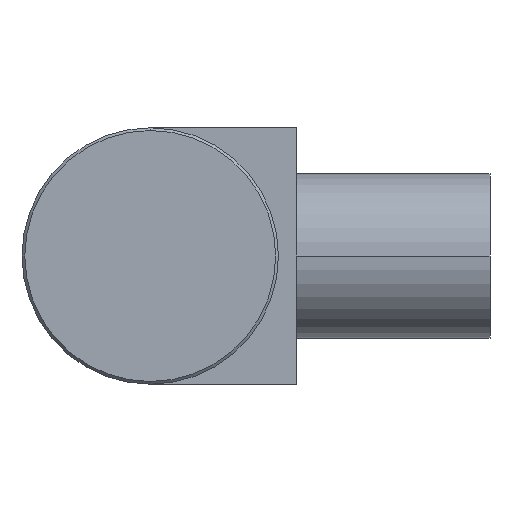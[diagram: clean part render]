
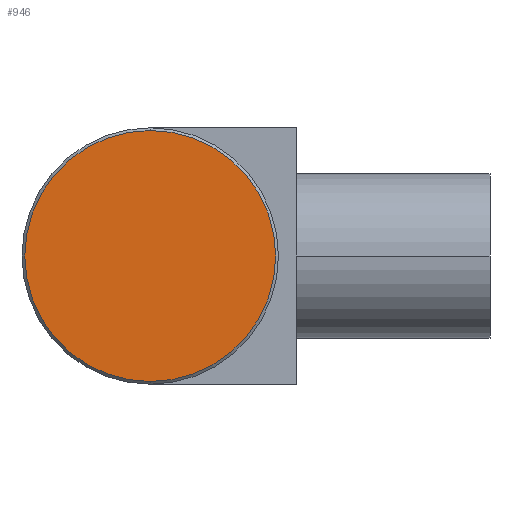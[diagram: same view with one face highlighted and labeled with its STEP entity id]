
A CAD part, left-side view. The second image highlights one B-rep face of the part: STEP entity #946.
In plain terms, the highlighted planar face has unit normal (-1, 0, 0).
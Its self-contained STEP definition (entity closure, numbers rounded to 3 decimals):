
#46 = CIRCLE ( 'NONE', #1136, 13.7 ) ;
#102 = CARTESIAN_POINT ( 'NONE',  ( 0., 0., 13.7 ) ) ;
#146 = CARTESIAN_POINT ( 'NONE',  ( 0., 0., 0. ) ) ;
#186 = CARTESIAN_POINT ( 'NONE',  ( 0., 0., 0. ) ) ;
#243 = DIRECTION ( 'NONE',  ( 0., 0., 1. ) ) ;
#361 = CARTESIAN_POINT ( 'NONE',  ( 0., 0., -13.7 ) ) ;
#406 = DIRECTION ( 'NONE',  ( 0., 0., 1. ) ) ;
#474 = PLANE ( 'NONE',  #1006 ) ;
#509 = DIRECTION ( 'NONE',  ( -1., 0., 0. ) ) ;
#538 = FACE_OUTER_BOUND ( 'NONE', #1167, .T. ) ;
#555 = VERTEX_POINT ( 'NONE', #361 ) ;
#556 = ORIENTED_EDGE ( 'NONE', *, *, #624, .T. ) ;
#595 = AXIS2_PLACEMENT_3D ( 'NONE', #879, #509, #406 ) ;
#624 = EDGE_CURVE ( 'NONE', #555, #1218, #945, .T. ) ;
#627 = DIRECTION ( 'NONE',  ( 0., 0., -1. ) ) ;
#664 = DIRECTION ( 'NONE',  ( 1., 0., 0. ) ) ;
#879 = CARTESIAN_POINT ( 'NONE',  ( 0., 0., 0. ) ) ;
#945 = CIRCLE ( 'NONE', #595, 13.7 ) ;
#946 = ADVANCED_FACE ( 'NONE', ( #538 ), #474, .F. ) ;
#1006 = AXIS2_PLACEMENT_3D ( 'NONE', #186, #664, #627 ) ;
#1059 = ORIENTED_EDGE ( 'NONE', *, *, #1068, .T. ) ;
#1068 = EDGE_CURVE ( 'NONE', #1218, #555, #46, .T. ) ;
#1136 = AXIS2_PLACEMENT_3D ( 'NONE', #146, #1181, #243 ) ;
#1167 = EDGE_LOOP ( 'NONE', ( #556, #1059 ) ) ;
#1181 = DIRECTION ( 'NONE',  ( -1., 0., 0. ) ) ;
#1218 = VERTEX_POINT ( 'NONE', #102 ) ;
